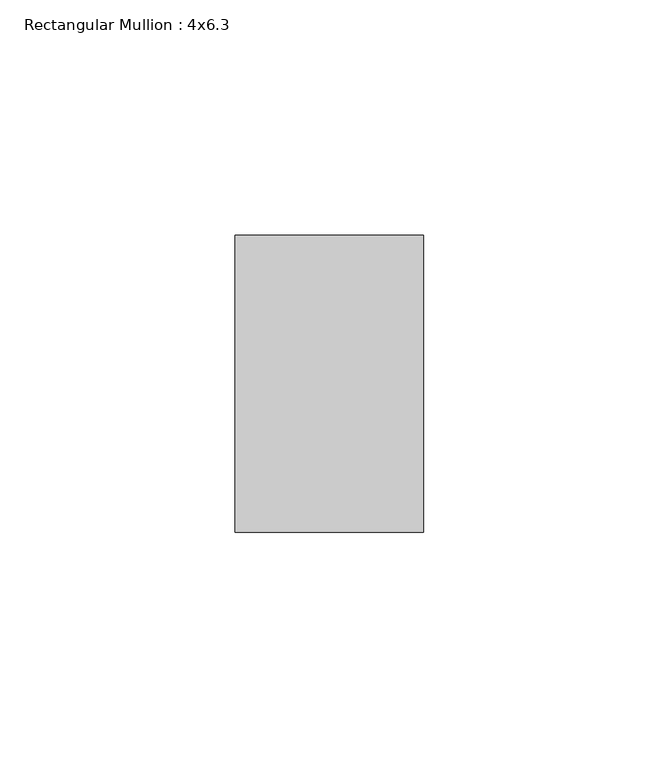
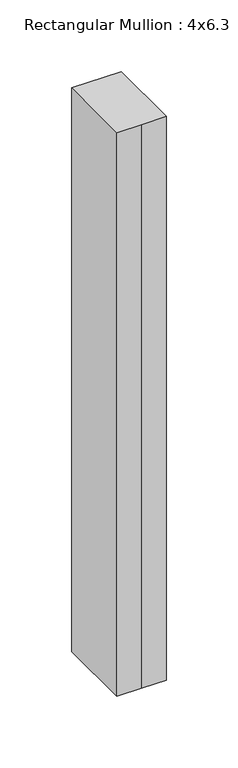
"""IFC4 building model written with IfcOpenShell, lengths in millimetres: member geometry, Rectangular Mullion : 4x6.3."""

import ifcopenshell
import ifcopenshell.guid

model = None  # the IFC model being written
_history = None  # IfcOwnerHistory: only IFC2X3 demands one
_inside = {}  # id of a spatial element -> (the spatial element, [elements in it])
_under = {}  # id of a project, library or spatial element -> (it, [spatial elements below it])
_declared = {}  # id of a project -> (the project, [libraries it declares])
_typed = {}  # id of a type object -> (the type object, [elements of that type])
_made_of = {}  # id of a material, layer set ... -> (it, [elements and type objects made of it])


def new_model(schema):
    """Start an empty IFC model of exactly this schema.

    Asked for "IFC4X3", IfcOpenShell would pick the latest addendum, in which some entities
    have other attributes; the version numbers below select the first issue.
    IFC2X3 requires an IfcOwnerHistory on every rooted entity: one is made here for all.
    """
    global model, _history
    if schema == "IFC4X3":
        model = ifcopenshell.file(schema_version=(4, 3, 0, 0))
    else:
        model = ifcopenshell.file(schema=schema)
    _inside.clear()
    _under.clear()
    _declared.clear()
    _typed.clear()
    _made_of.clear()
    _history = None
    if model.schema == "IFC2X3":
        org = make("IfcOrganization", Name="unknown")
        user = make(
            "IfcPersonAndOrganization",
            ThePerson=make("IfcPerson", FamilyName="unknown"),
            TheOrganization=org,
        )
        app = make(
            "IfcApplication",
            ApplicationDeveloper=org,
            Version="unknown",
            ApplicationFullName="unknown",
            ApplicationIdentifier="unknown",
        )
        _history = make(
            "IfcOwnerHistory",
            OwningUser=user,
            OwningApplication=app,
            ChangeAction="ADDED",
            CreationDate=0,
        )
    return model


def make(cls, **values):
    """One entity of the class cls with the attributes given. An attribute that is None is left unset."""
    return model.create_entity(
        cls, **{name: value for name, value in values.items() if value is not None}
    )


def rooted(cls, **values):
    """An entity with a GlobalId (a new one), such as an element, a storey or a relation."""
    return make(cls, GlobalId=ifcopenshell.guid.new(), OwnerHistory=_history, **values)


def si_unit(unit_type, name, prefix=None):
    """IfcSIUnit, for example si_unit("LENGTHUNIT", "METRE", prefix="MILLI")."""
    return make("IfcSIUnit", UnitType=unit_type, Prefix=prefix, Name=name)


def assignment(units):
    """IfcUnitAssignment: the units of a project."""
    return None if units is None else make("IfcUnitAssignment", Units=units)


def point(xyz):
    """IfcCartesianPoint."""
    return None if xyz is None else make("IfcCartesianPoint", Coordinates=xyz)


def direction(xyz):
    """IfcDirection."""
    return None if xyz is None else make("IfcDirection", DirectionRatios=xyz)


def frame(location, z_axis=None, x_axis=None):
    """IfcAxis2Placement3D, a coordinate frame: its origin and axes. An axis left out is left unset."""
    return make(
        "IfcAxis2Placement3D",
        Location=point(location),
        Axis=direction(z_axis),
        RefDirection=direction(x_axis),
    )


def origin():
    """The frame at (0, 0, 0) with its axes left unset."""
    return frame((0.0, 0.0, 0.0))


def place(relative_to, where):
    """IfcLocalPlacement: puts the frame where relative to a parent placement (None: the world)."""
    return make(
        "IfcLocalPlacement", PlacementRelTo=relative_to, RelativePlacement=where
    )


def context(
    kind, dimensions, precision=None, world=None, true_north=None, identifier=None
):
    """IfcGeometricRepresentationContext, for example the 3D "Model" context."""
    return make(
        "IfcGeometricRepresentationContext",
        ContextIdentifier=identifier,
        ContextType=kind,
        CoordinateSpaceDimension=dimensions,
        Precision=precision,
        WorldCoordinateSystem=world,
        TrueNorth=true_north,
    )


def project(units=None, contexts=None):
    """IfcProject with its units and contexts."""
    return rooted(
        "IfcProject",
        Name="project",
        RepresentationContexts=contexts,
        UnitsInContext=assignment(units),
    )


def spatial(cls, under=None, at=None, **own):
    """A site, building, storey or space (cls), placed at a placement, below another one or the project."""
    s = rooted(cls, ObjectPlacement=at, **own)
    if under is not None:
        _under.setdefault(under.id(), (under, []))[1].append(s)
    return s


def polyline(points):
    """IfcPolyline through the points."""
    return make("IfcPolyline", Points=[point(p) for p in points])


def outline(outer, holes=None, kind="AREA"):
    """IfcArbitraryClosedProfileDef: a profile drawn as a closed curve; with holes, ...WithVoids."""
    if holes is None:
        return make("IfcArbitraryClosedProfileDef", ProfileType=kind, OuterCurve=outer)
    return make(
        "IfcArbitraryProfileDefWithVoids",
        ProfileType=kind,
        OuterCurve=outer,
        InnerCurves=holes,
    )


def extrude(swept, where, along, depth):
    """IfcExtrudedAreaSolid: the profile swept, set in the frame where, extruded along a direction by depth."""
    return make(
        "IfcExtrudedAreaSolid",
        SweptArea=swept,
        Position=where,
        ExtrudedDirection=direction(along),
        Depth=depth,
    )


def shape(context_of_items, identifier, shape_type, items):
    """IfcShapeRepresentation: the items that make up one representation, for example the "Body"."""
    return make(
        "IfcShapeRepresentation",
        ContextOfItems=context_of_items,
        RepresentationIdentifier=identifier,
        RepresentationType=shape_type,
        Items=items,
    )


def source(mapping_origin, context_of_items, identifier, shape_type, items):
    """IfcRepresentationMap: a shape defined once, which mapped items show again and again."""
    return make(
        "IfcRepresentationMap",
        MappingOrigin=mapping_origin,
        MappedRepresentation=shape(context_of_items, identifier, shape_type, items),
    )


def transform(
    local_origin,
    x_axis=None,
    y_axis=None,
    z_axis=None,
    scale=None,
    scale2=None,
    scale3=None,
    uniform=True,
):
    """IfcCartesianTransformationOperator3D, or its non-uniform kind. x_axis, y_axis, z_axis: its Axis1, 2, 3."""
    if uniform:
        return make(
            "IfcCartesianTransformationOperator3D",
            Axis1=direction(x_axis),
            Axis2=direction(y_axis),
            LocalOrigin=point(local_origin),
            Scale=scale,
            Axis3=direction(z_axis),
        )
    return make(
        "IfcCartesianTransformationOperator3DnonUniform",
        Axis1=direction(x_axis),
        Axis2=direction(y_axis),
        LocalOrigin=point(local_origin),
        Scale=scale,
        Axis3=direction(z_axis),
        Scale2=scale2,
        Scale3=scale3,
    )


def mapped(mapping_source, mapping_target):
    """IfcMappedItem: shows the shape of a source again, moved by a transform."""
    return make(
        "IfcMappedItem", MappingSource=mapping_source, MappingTarget=mapping_target
    )


def made_of(thing, what):
    """Note that an element or type object is made of a material, layer set ...; save() writes the relation."""
    if what is not None:
        _made_of.setdefault(what.id(), (what, []))[1].append(thing)
    return thing


def element(
    cls,
    number,
    at=None,
    inside=None,
    cuts=None,
    type_object=None,
    material=None,
    context=None,
    identifier="Body",
    shape_type=None,
    held_by="IfcProductDefinitionShape",
    body=None,
    shapes=None,
    **own,
):
    """One element of the class cls, such as IfcWall. Its Tag is "e" and its number.

    at: its placement. inside: the storey or other place that contains it. cuts: it is an
    opening in that element (IfcRelVoidsElement). A single representation is given by context,
    identifier, shape_type and body (its items); several are given by shapes. held_by: the class
    of the entity that holds the representations. save() writes the other relations.
    """
    e = rooted(cls, Tag="e%d" % number, ObjectPlacement=at, **own)
    if body is not None:
        shapes = [shape(context, identifier, shape_type, body)]
    if shapes is not None:
        e.Representation = make(held_by, Representations=shapes)
    if inside is not None:
        _inside.setdefault(inside.id(), (inside, []))[1].append(e)
    if cuts is not None:
        rooted(
            "IfcRelVoidsElement", RelatingBuildingElement=cuts, RelatedOpeningElement=e
        )
    if type_object is not None:
        _typed.setdefault(type_object.id(), (type_object, []))[1].append(e)
    return made_of(e, material)


def aggregate(whole, parts):
    """IfcRelAggregates: a whole, such as a stair, and the parts it consists of."""
    return rooted("IfcRelAggregates", RelatingObject=whole, RelatedObjects=parts)


def save(model, path):
    """Write the relations noted so far, then the file.

    IfcRelAggregates (storeys below a building ...), IfcRelContainedInSpatialStructure (elements
    in a storey), IfcRelDefinesByType, IfcRelAssociatesMaterial and IfcRelDeclares: one each for
    every whole, place, type object, material and project.
    """
    for whole, parts in _under.values():
        aggregate(whole, parts)
    for where, things in _inside.values():
        rooted(
            "IfcRelContainedInSpatialStructure",
            RelatedElements=things,
            RelatingStructure=where,
        )
    for kind, things in _typed.values():
        rooted("IfcRelDefinesByType", RelatedObjects=things, RelatingType=kind)
    for what, things in _made_of.values():
        rooted("IfcRelAssociatesMaterial", RelatedObjects=things, RelatingMaterial=what)
    for by, libraries in _declared.values():
        rooted("IfcRelDeclares", RelatingContext=by, RelatedDefinitions=libraries)
    model.write(path)


def rectangular_mullion_4x6_3_cbdbb741(model_context):
    return source(origin(), model_context, "Body", "SweptSolid", [
        extrude(outline(polyline([(-20.0, 20.0), (-20.0, 83.0), (20.0, 83.0), (20.0, 20.0), (0.0, 20.0), (-20.0, 20.0)])), frame((0.0, 0.0, -480.7928194), z_axis=(0.0, 0.0, 1.0), x_axis=(1.0, 0.0, 0.0)), (0.0, 0.0, 1.0), 480.7928194),
    ])


if __name__ == "__main__":
    model = new_model("IFC4")
    model_context = context("Model", 3, world=origin())
    ifc_project = project(units=[si_unit("LENGTHUNIT", "METRE", prefix="MILLI")], contexts=[model_context])
    site = spatial("IfcSite", under=ifc_project)
    building = spatial("IfcBuilding", under=site)
    placement = place(None, origin())
    rectangular_mullion_4x6_3_shape = rectangular_mullion_4x6_3_cbdbb741(model_context)
    element("IfcMember", 1, ObjectType="Rectangular Mullion : 4x6.3", at=placement, inside=building, context=model_context, shape_type="MappedRepresentation", body=[
        mapped(rectangular_mullion_4x6_3_shape, transform((0.0, 0.0, 0.0), x_axis=(1.0, 0.0, 0.0), y_axis=(0.0, 1.0, 0.0), z_axis=(0.0, 0.0, 1.0))),
    ])
    save(model, "model.ifc")
